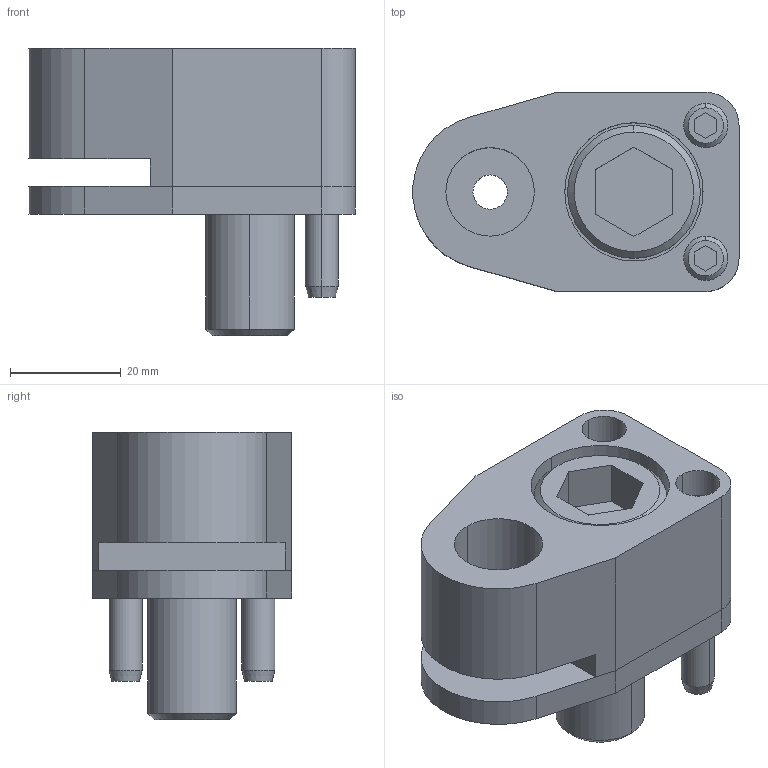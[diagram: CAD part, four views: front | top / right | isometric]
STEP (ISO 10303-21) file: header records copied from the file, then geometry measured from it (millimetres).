
FILE_DESCRIPTION(/* description */ (''),/* implementation_level */ '2;1');
FILE_NAME(/* name */ '3d_tp-fps16_03049_r00.stp',/* time_stamp */ '2011-01-10T14:09:00+09:00',/* author */ ('MISUMI'),/* organization */ (''),/* preprocessor_version */ 'ST-DEVELOPER v11',/* originating_system */ 'UGS - NX 5.0',/* authorisation */ '');
FILE_SCHEMA (('CONFIG_CONTROL_DESIGN'));
Length unit declared in the file: millimetre
Products named in the file (1): 3d_tp-fps16_03049_r00
Bounding box: 58.95 x 36 x 52 mm (x, y, z)
Volume: 50276.6 mm3; surface area: 21393.4 mm2
Topology: 7 solids, 7 shells, 131 faces, 300 edges, 193 vertices
Faces by surface type: plane 59, cylinder 50, cone 22
Entity records: 3856 total; most frequent: CARTESIAN_POINT 684, DIRECTION 678, ORIENTED_EDGE 600, EDGE_CURVE 300, AXIS2_PLACEMENT_3D 255, VERTEX_POINT 193, LINE 168, VECTOR 168
